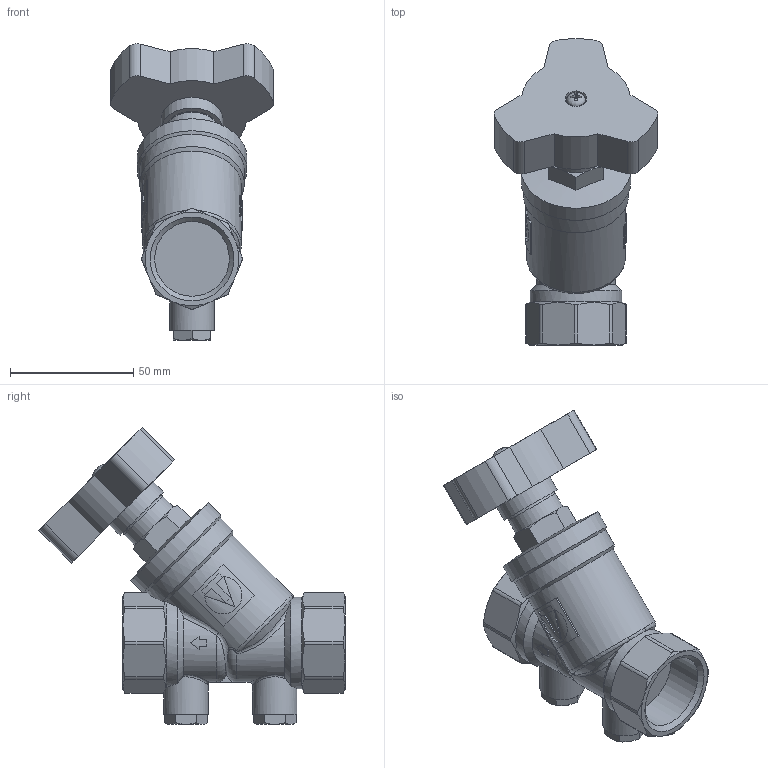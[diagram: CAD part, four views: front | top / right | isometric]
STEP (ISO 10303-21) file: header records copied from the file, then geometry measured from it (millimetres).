
FILE_DESCRIPTION(('STEP AP203'), '1');
FILE_NAME('覆.493116.004.000 捘 - VT.054.N.06', '2024-09-13T13:02:54', ('Boss'), (''), 'C3D Converter', 'C3D Toolkit', '');
FILE_SCHEMA(('CONFIG_CONTROL_DESIGN'));
Length unit declared in the file: millimetre
Products named in the file (3): ВР.493116.004.000 СБ
Assembly tree (2 placements, depth 2):
  ВР.493116.004.000 СБ
    (unnamed)
    (unnamed)
Bounding box: 66.31 x 124.03 x 120.22 mm (x, y, z)
Volume: 180026.6 mm3; surface area: 35178.8 mm2
Topology: 3 solids, 3 shells, 459 faces, 1212 edges, 787 vertices
Faces by surface type: plane 176, extrusion 131, cylinder 70, cone 58, bspline 16, torus 8
Full cylindrical faces by diameter (mm): 3.242 x1, 4 x1, 4.2 x1, 7.5 x1, 8.9 x1, 9 x1, 9.3 x1, 17.3 x1, 18 x2, 22 x1, 24.8 x1, 30.292 x2, 37 x1, 42.5 x1, 44.5 x1
Entity records: 27166 total; most frequent: CARTESIAN_POINT 16830, ORIENTED_EDGE 2368, DIRECTION 1576, EDGE_CURVE 1184, VERTEX_POINT 787, B_SPLINE_CURVE_WITH_KNOTS 632, VECTOR 562, EDGE_LOOP 517
